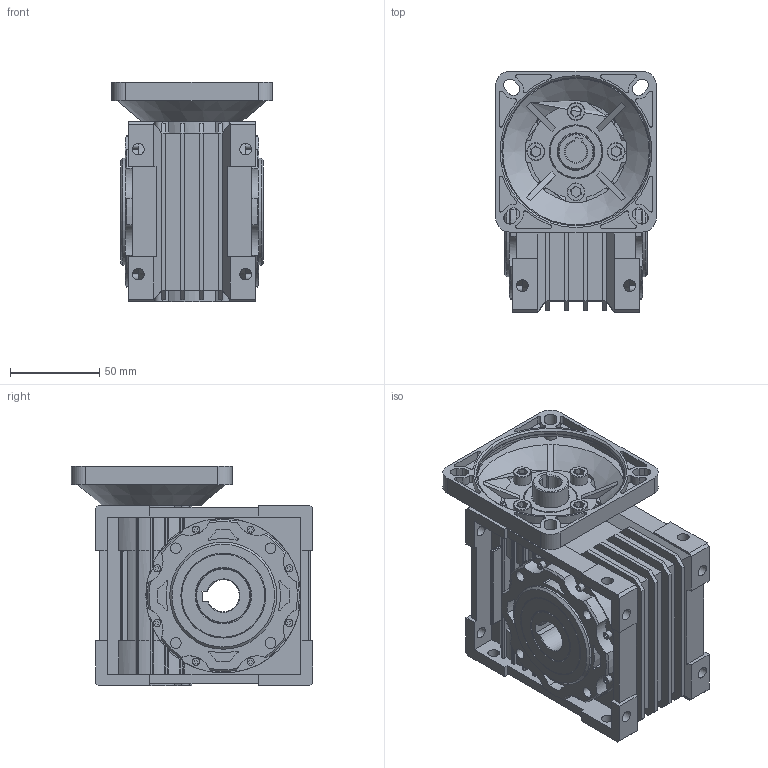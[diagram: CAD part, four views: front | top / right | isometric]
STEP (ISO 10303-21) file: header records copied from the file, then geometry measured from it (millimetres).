
FILE_DESCRIPTION(/* description */ (''),/* implementation_level */ '2;1');
FILE_NAME(/* name */ 'Z:\동력 3D 파일\PCMRV040_9012_3D.stp',/* time_stamp */ '2021-12-01T16:32:59+09:00',/* author */ ('jaebok'),/* organization */ (''),/* preprocessor_version */ 'ST-DEVELOPER v18.1',/* originating_system */ 'Autodesk Inventor 2022',/* authorisation */ '');
FILE_SCHEMA (('AUTOMOTIVE_DESIGN { 1 0 10303 214 3 1 1 }'));
Length unit declared in the file: millimetre
Products named in the file (1): 부품38
Bounding box: 90 x 135 x 123 mm (x, y, z)
Volume: 765628.9 mm3; surface area: 124949.1 mm2
Topology: 1 solids, 6 shells, 903 faces, 2369 edges, 1552 vertices
Faces by surface type: plane 520, cylinder 342, cone 37, torus 4
Full cylindrical faces by diameter (mm): 2.933 x8, 4 x16, 6 x8, 6.5 x16, 6.8 x4, 10 x4, 20 x2, 30 x2, 30.6 x2, 38.1 x2, 39.1 x2, 47.5 x2, 60 x2, 82 x1, 83 x1
Entity records: 29261 total; most frequent: CARTESIAN_POINT 5380, DIRECTION 4825, ORIENTED_EDGE 4738, EDGE_CURVE 2369, AXIS2_PLACEMENT_3D 1673, VERTEX_POINT 1552, LINE 1479, VECTOR 1479
